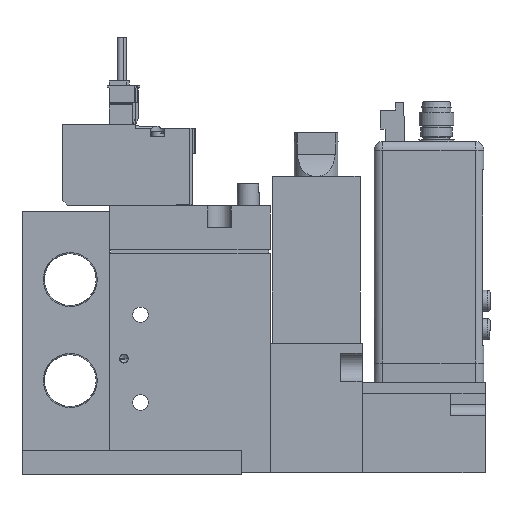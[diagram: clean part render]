
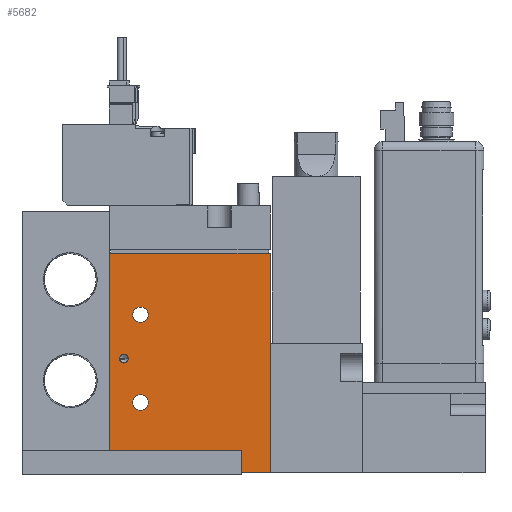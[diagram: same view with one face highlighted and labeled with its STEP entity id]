
A CAD part, left-side view. The second image highlights one B-rep face of the part: STEP entity #5682.
In plain terms, the highlighted planar face has unit normal (-1, 0, 0) as drawn and (1, 0, 0) by its records, which use the part's own axes.
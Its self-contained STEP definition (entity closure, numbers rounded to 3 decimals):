
#5682=ADVANCED_FACE('',(#12083,#12084,#12085,#12086),#12087,.F.);
#12083=FACE_BOUND('',#21010,.T.);
#12084=FACE_BOUND('',#21011,.T.);
#12085=FACE_BOUND('',#21012,.T.);
#12086=FACE_OUTER_BOUND('',#21013,.T.);
#12087=PLANE('',#21014);
#21010=EDGE_LOOP('',(#40329));
#21011=EDGE_LOOP('',(#40330));
#21012=EDGE_LOOP('',(#40331));
#21013=EDGE_LOOP('',(#40332,#40333,#40334,#40335));
#21014=AXIS2_PLACEMENT_3D('',#40336,#40337,#40338);
#40329=ORIENTED_EDGE('',*,*,#61122,.F.);
#40330=ORIENTED_EDGE('',*,*,#61124,.T.);
#40331=ORIENTED_EDGE('',*,*,#61125,.T.);
#40332=ORIENTED_EDGE('',*,*,#61115,.T.);
#40333=ORIENTED_EDGE('',*,*,#61112,.F.);
#40334=ORIENTED_EDGE('',*,*,#61116,.F.);
#40335=ORIENTED_EDGE('',*,*,#61108,.T.);
#40336=CARTESIAN_POINT('',(8.5,-19.444,50.0));
#40337=DIRECTION('',(-1.0,0.0,0.0));
#40338=DIRECTION('',(0.0,0.0,1.0));
#61108=EDGE_CURVE('',#73902,#73900,#73903,.T.);
#61112=EDGE_CURVE('',#73907,#73905,#73909,.T.);
#61115=EDGE_CURVE('',#73900,#73905,#73914,.T.);
#61116=EDGE_CURVE('',#73902,#73907,#73915,.T.);
#61122=EDGE_CURVE('',#73924,#73924,#73925,.T.);
#61124=EDGE_CURVE('',#73926,#73926,#73927,.T.);
#61125=EDGE_CURVE('',#73928,#73928,#73929,.T.);
#73900=VERTEX_POINT('',#94272);
#73902=VERTEX_POINT('',#94275);
#73903=LINE('',#94276,#94277);
#73905=VERTEX_POINT('',#94280);
#73907=VERTEX_POINT('',#94283);
#73909=LINE('',#94286,#94287);
#73914=LINE('',#94292,#94293);
#73915=LINE('',#94294,#94295);
#73924=VERTEX_POINT('',#94304);
#73925=CIRCLE('',#94305,1.0);
#73926=VERTEX_POINT('',#94306);
#73927=CIRCLE('',#94307,1.75);
#73928=VERTEX_POINT('',#94308);
#73929=CIRCLE('',#94309,1.75);
#94272=CARTESIAN_POINT('',(8.5,-19.444,0.0));
#94275=CARTESIAN_POINT('',(8.5,-19.444,50.0));
#94276=CARTESIAN_POINT('',(8.5,-19.444,50.0));
#94277=VECTOR('',#113127,1.0);
#94280=CARTESIAN_POINT('',(8.5,17.056,0.0));
#94283=CARTESIAN_POINT('',(8.5,17.056,50.0));
#94286=CARTESIAN_POINT('',(8.5,17.056,50.0));
#94287=VECTOR('',#113131,1.0);
#94292=CARTESIAN_POINT('',(8.5,-19.444,0.0));
#94293=VECTOR('',#113138,1.0);
#94294=CARTESIAN_POINT('',(8.5,-19.444,50.0));
#94295=VECTOR('',#113139,1.0);
#94304=CARTESIAN_POINT('',(8.5,-17.244,26.0));
#94305=AXIS2_PLACEMENT_3D('',#113152,#113153,#113154);
#94306=CARTESIAN_POINT('',(8.5,-10.694,36.0));
#94307=AXIS2_PLACEMENT_3D('',#113155,#113156,#113157);
#94308=CARTESIAN_POINT('',(8.5,-10.694,16.0));
#94309=AXIS2_PLACEMENT_3D('',#113158,#113159,#113160);
#113127=DIRECTION('',(0.0,0.0,-1.0));
#113131=DIRECTION('',(0.0,0.0,-1.0));
#113138=DIRECTION('',(0.0,1.0,0.0));
#113139=DIRECTION('',(0.0,1.0,0.0));
#113152=CARTESIAN_POINT('',(8.5,-16.244,26.0));
#113153=DIRECTION('',(1.0,0.,0.0));
#113154=DIRECTION('',(0.,-1.0,0.0));
#113155=CARTESIAN_POINT('',(8.5,-12.444,36.0));
#113156=DIRECTION('',(-1.0,0.0,0.0));
#113157=DIRECTION('',(0.0,1.0,0.0));
#113158=CARTESIAN_POINT('',(8.5,-12.444,16.0));
#113159=DIRECTION('',(-1.0,0.0,0.0));
#113160=DIRECTION('',(0.0,1.0,0.0));
